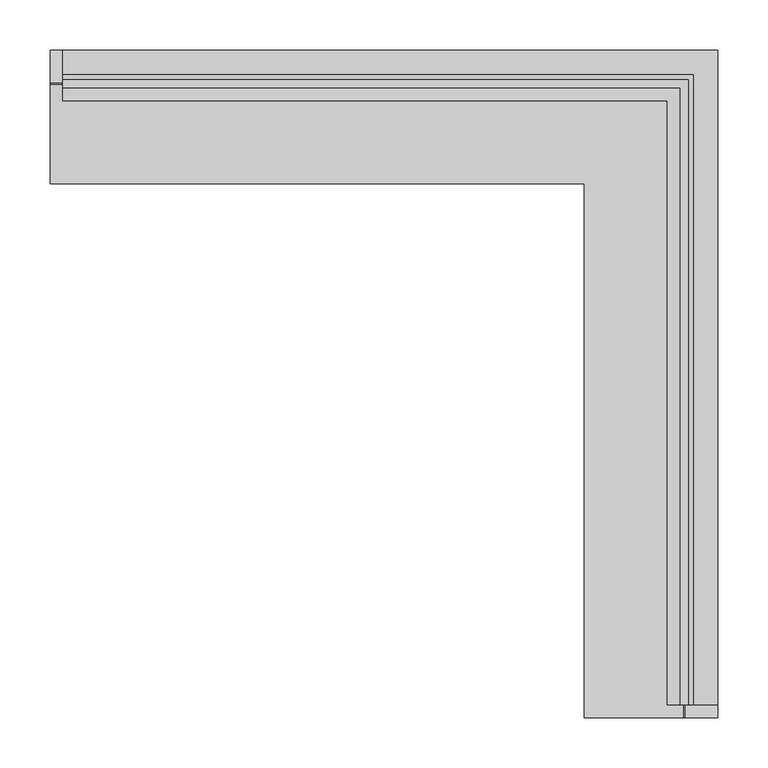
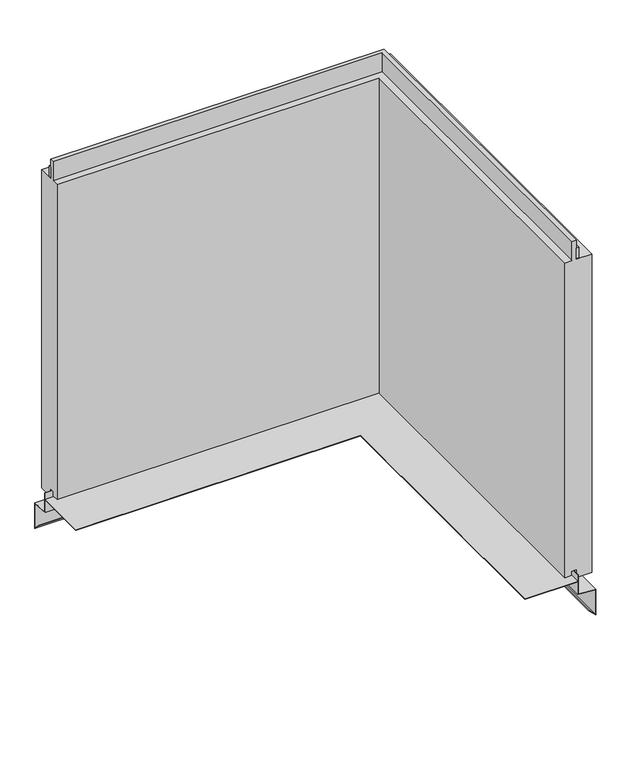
"""IFC4 building model written with IfcOpenShell, lengths in millimetres: plate geometry, Trimo_Qbiss Screen_L Corner Panel-HORIZONTAL : HR - B."""

from ifc_helpers import new_model, si_unit, frame, origin, place, context, project, spatial, polyline, outline, extrude, faceted_brep, source, transform, mapped, element, save


def plate_91b26778(model_context):
    return source(origin(), model_context, "Body", "SolidModel", [
        faceted_brep([(-281.25, 66.7, 14.0835797), (347.95, 66.7, 14.0835797), (347.95, -562.5, 14.0835797), (348.75, -562.5, 14.0835797), (348.75, 67.5, 14.0835797), (-281.25, 67.5, 14.0835797), (348.75, 67.5, -23.0), (-281.25, 67.5, -23.0), (381.25, 100.0, -25.8433816), (-281.25, 100.0, -25.8433816), (381.25, 100.0, -76.0), (-281.25, 100.0, -76.0), (368.4009533, 87.1509533, -63.1509533), (-281.25, 87.1509533, -63.1509533), (368.9666388, 87.7166388, -62.5852679), (-281.25, 87.7166388, -62.5852679), (380.45, 99.2, -74.0686292), (-281.25, 99.2, -74.0686292), (380.45, 99.2, -26.5764465), (-281.25, 99.2, -26.5764465), (347.95, 66.7, -23.7330649), (-281.25, 66.7, -23.7330649), (347.95, 66.7, 1.0), (-281.25, 66.7, 1.0), (347.95, -562.5, 1.0), (248.75, -562.5, 1.0), (248.75, -32.5, 1.0), (-281.25, -32.5, 1.0), (-281.25, -32.5, 1.8), (248.75, -32.5, 1.8), (248.75, -562.5, 1.8), (347.95, -562.5, 1.8), (347.95, 66.7, 1.8), (-281.25, 66.7, 1.8), (348.75, -562.5, -23.0), (381.25, -562.5, -25.8433816), (381.25, -562.5, -76.0), (368.4009533, -562.5, -63.1509533), (368.9666388, -562.5, -62.5852679), (380.45, -562.5, -74.0686292), (380.45, -562.5, -26.5764465), (347.95, -562.5, -23.7330649)], [[[0, 1, 2, 3, 4, 5]], [[4, 6, 7, 5]], [[6, 8, 9, 7]], [[8, 10, 11, 9]], [[10, 12, 13, 11]], [[12, 14, 15, 13]], [[14, 16, 17, 15]], [[16, 18, 19, 17]], [[18, 20, 21, 19]], [[20, 22, 23, 21]], [[23, 22, 24, 25, 26, 27]], [[28, 29, 30, 31, 32, 33]], [[32, 1, 0, 33]], [[6, 4, 3, 34]], [[8, 6, 34, 35]], [[10, 8, 35, 36]], [[12, 10, 36, 37]], [[14, 12, 37, 38]], [[16, 14, 38, 39]], [[18, 16, 39, 40]], [[20, 18, 40, 41]], [[22, 20, 41, 24]], [[1, 32, 31, 2]], [[0, 5, 7, 9, 11, 13, 15, 17, 19, 21, 23, 27, 28, 33]], [[3, 2, 31, 30, 25, 24, 41, 40, 39, 38, 37, 36, 35, 34]], [[26, 29, 28, 27]], [[29, 26, 25, 30]]]),
        extrude(outline(polyline([(-268.75, 71.0), (-268.75, 76.0), (357.25, 76.0), (357.25, -550.0), (352.25, -550.0), (352.25, 71.0), (-268.75, 71.0)])), frame((0.0, 0.0, 628.0), z_axis=(0.0, 0.0, 1.0), x_axis=(1.0, 0.0, 0.0)), (0.0, 0.0, 1.0), 21.0),
        faceted_brep([(-268.75, 71.0, 627.0), (-268.75, 100.0, 627.0), (-268.75, 100.0, 0.0), (-268.75, 72.0, 0.0), (-268.75, 72.0, 15.5), (-268.75, 62.0, 15.5), (-268.75, 62.0, 7.0), (-268.75, 50.0, 7.0), (-268.75, 50.0, 627.0), (-268.75, 63.0, 627.0), (-268.75, 63.0, 664.5), (-268.75, 71.0, 664.5), (352.25, 71.0, 627.0), (352.25, -550.0, 627.0), (381.25, -550.0, 627.0), (381.25, 100.0, 627.0), (381.25, 100.0, 0.0), (381.25, -550.0, 0.0), (353.25, -550.0, 0.0), (353.25, 72.0, 0.0), (353.25, 72.0, 15.5), (353.25, -550.0, 15.5), (343.25, -550.0, 15.5), (343.25, 62.0, 15.5), (343.25, 62.0, 7.0), (343.25, -550.0, 7.0), (331.25, -550.0, 7.0), (331.25, 50.0, 7.0), (331.25, 50.0, 627.0), (331.25, -550.0, 627.0), (344.25, -550.0, 627.0), (344.25, 63.0, 627.0), (344.25, 63.0, 664.5), (344.25, -550.0, 664.5), (352.25, -550.0, 664.5), (352.25, 71.0, 664.5)], [[[0, 1, 2, 3, 4, 5, 6, 7, 8, 9, 10, 11]], [[1, 0, 12, 13, 14, 15]], [[2, 1, 15, 16]], [[3, 2, 16, 17, 18, 19]], [[4, 3, 19, 20]], [[5, 4, 20, 21, 22, 23]], [[6, 5, 23, 24]], [[7, 6, 24, 25, 26, 27]], [[8, 7, 27, 28]], [[9, 8, 28, 29, 30, 31]], [[10, 9, 31, 32]], [[11, 10, 32, 33, 34, 35]], [[0, 11, 35, 12]], [[13, 34, 33, 30, 29, 26, 25, 22, 21, 18, 17, 14]], [[16, 15, 14, 17]], [[20, 19, 18, 21]], [[24, 23, 22, 25]], [[28, 27, 26, 29]], [[32, 31, 30, 33]], [[12, 35, 34, 13]]]),
    ])


if __name__ == "__main__":
    model = new_model("IFC4")
    model_context = context("Model", 3, world=origin())
    ifc_project = project(units=[si_unit("LENGTHUNIT", "METRE", prefix="MILLI")], contexts=[model_context])
    site = spatial("IfcSite", under=ifc_project)
    building = spatial("IfcBuilding", under=site)
    placement = place(None, origin())
    plate_shape = plate_91b26778(model_context)
    element("IfcPlate", 1, ObjectType="Trimo_Qbiss Screen_L Corner Panel-HORIZONTAL : HR - B", at=placement, inside=building, context=model_context, shape_type="MappedRepresentation", body=[
        mapped(plate_shape, transform((0.0, 0.0, 0.0), x_axis=(1.0, 0.0, 0.0), y_axis=(0.0, 1.0, 0.0), z_axis=(0.0, 0.0, 1.0))),
    ])
    save(model, "model.ifc")
